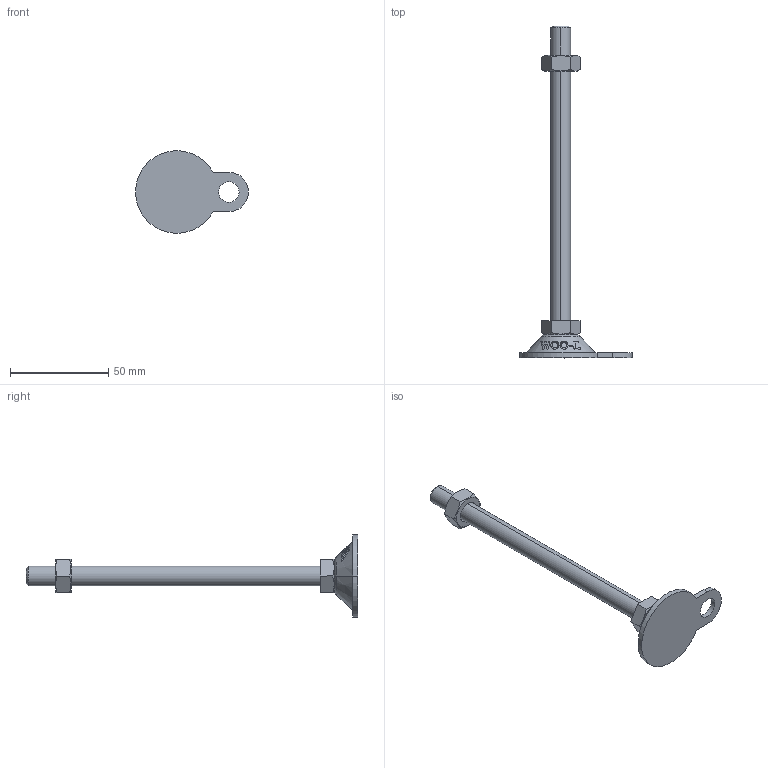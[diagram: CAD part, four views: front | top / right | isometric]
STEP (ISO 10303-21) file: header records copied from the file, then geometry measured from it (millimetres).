
FILE_DESCRIPTION (( 'STEP AP214' ), '1' );
FILE_NAME ('ABL42-M10-150.step', '2021-02-05T04:17:55', ( '' ), ( '' ), 'SwSTEP 2.0', 'SolidWorks 2019', '' );
FILE_SCHEMA (( 'AUTOMOTIVE_DESIGN' ));
Length unit declared in the file: millimetre
Products named in the file (2): ABL42-M10-150
Bounding box: 57.5 x 169 x 41.86 mm (x, y, z)
Volume: 24299 mm3; surface area: 10327.7 mm2
Topology: 2 solids, 2 shells, 128 faces, 325 edges, 212 vertices
Faces by surface type: plane 48, cylinder 38, cone 22, bspline 18, torus 2
Entity records: 5503 total; most frequent: CARTESIAN_POINT 2617, ORIENTED_EDGE 650, DIRECTION 473, EDGE_CURVE 325, VERTEX_POINT 212, AXIS2_PLACEMENT_3D 176, EDGE_LOOP 143, B_SPLINE_CURVE_WITH_KNOTS 140
